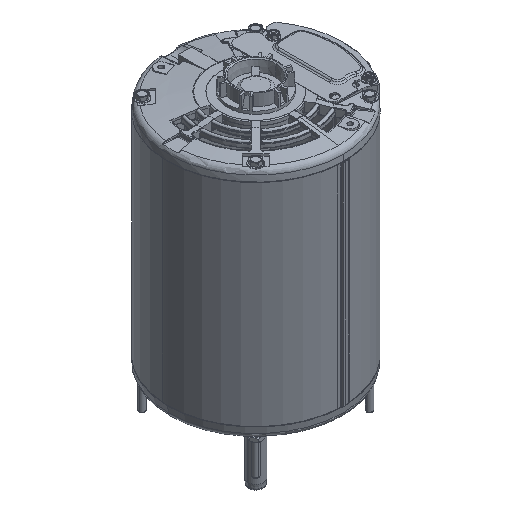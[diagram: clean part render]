
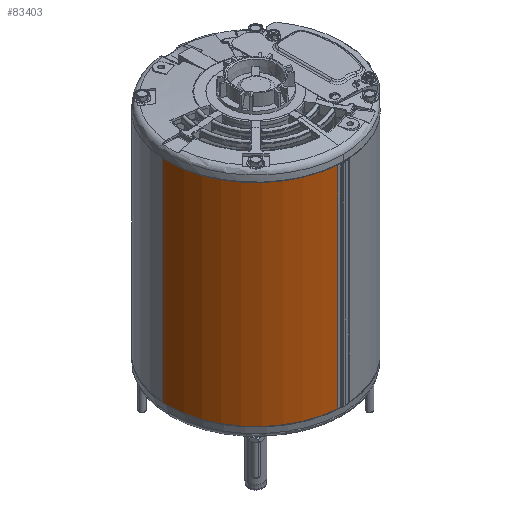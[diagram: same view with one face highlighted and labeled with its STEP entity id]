
A CAD part, isometric view. The second image highlights one B-rep face of the part: STEP entity #83403.
In plain terms, the highlighted cylindrical face has radius 71.064 mm (diameter 142.128 mm), a partial arc.
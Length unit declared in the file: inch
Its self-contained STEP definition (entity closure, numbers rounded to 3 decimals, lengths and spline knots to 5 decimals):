
#1217 = CARTESIAN_POINT ( 'NONE',  ( -2.7978, 0., 3.5884 ) ) ;
#2022 = CARTESIAN_POINT ( 'NONE',  ( 0., 0., 25.18046 ) ) ;
#5918 = CARTESIAN_POINT ( 'NONE',  ( -0.18298, -2.79181, 10.4134 ) ) ;
#10725 = VERTEX_POINT ( 'NONE', #65408 ) ;
#16226 = AXIS2_PLACEMENT_3D ( 'NONE', #2022, #104409, #138710 ) ;
#19414 = EDGE_CURVE ( 'NONE', #10725, #102709, #98943, .T. ) ;
#20513 = EDGE_CURVE ( 'NONE', #139731, #10725, #29333, .T. ) ;
#20539 = CIRCLE ( 'NONE', #105485, 2.7978 ) ;
#21456 = CIRCLE ( 'NONE', #127889, 2.7978 ) ;
#22016 = CARTESIAN_POINT ( 'NONE',  ( 0., 0., 3.5884 ) ) ;
#23955 = ORIENTED_EDGE ( 'NONE', *, *, #71492, .T. ) ;
#24320 = ORIENTED_EDGE ( 'NONE', *, *, #65866, .F. ) ;
#28236 = DIRECTION ( 'NONE',  ( 0., 0., -1. ) ) ;
#29333 = CIRCLE ( 'NONE', #86299, 2.7978 ) ;
#31665 = DIRECTION ( 'NONE',  ( 1., 0., 0. ) ) ;
#32005 = DIRECTION ( 'NONE',  ( 0., 0., 1. ) ) ;
#44804 = DIRECTION ( 'NONE',  ( 0., 0., -1. ) ) ;
#44891 = DIRECTION ( 'NONE',  ( -1., 0., 0. ) ) ;
#52071 = LINE ( 'NONE', #5918, #68043 ) ;
#53482 = DIRECTION ( 'NONE',  ( -1., 0., 0. ) ) ;
#54116 = DIRECTION ( 'NONE',  ( 0., 0., -1. ) ) ;
#63601 = AXIS2_PLACEMENT_3D ( 'NONE', #98796, #54116, #31665 ) ;
#64387 = EDGE_LOOP ( 'NONE', ( #126452, #76945, #131924, #23955, #73401, #24320 ) ) ;
#65408 = CARTESIAN_POINT ( 'NONE',  ( -2.79181, 0.18298, 10.3184 ) ) ;
#65866 = EDGE_CURVE ( 'NONE', #68173, #124952, #52071, .T. ) ;
#67186 = DIRECTION ( 'NONE',  ( 1., 0., 0. ) ) ;
#68043 = VECTOR ( 'NONE', #28236, 39.37008 ) ;
#68173 = VERTEX_POINT ( 'NONE', #101488 ) ;
#71492 = EDGE_CURVE ( 'NONE', #102709, #72276, #20539, .T. ) ;
#72276 = VERTEX_POINT ( 'NONE', #1217 ) ;
#73401 = ORIENTED_EDGE ( 'NONE', *, *, #111769, .T. ) ;
#74859 = CARTESIAN_POINT ( 'NONE',  ( -2.7978, 0., 10.3184 ) ) ;
#76945 = ORIENTED_EDGE ( 'NONE', *, *, #20513, .T. ) ;
#78601 = CARTESIAN_POINT ( 'NONE',  ( 0., 0., 10.3184 ) ) ;
#81733 = CARTESIAN_POINT ( 'NONE',  ( -0.18298, -2.79181, 3.5884 ) ) ;
#83403 = ADVANCED_FACE ( 'NONE', ( #113900 ), #112031, .T. ) ;
#86299 = AXIS2_PLACEMENT_3D ( 'NONE', #78601, #44804, #67186 ) ;
#98796 = CARTESIAN_POINT ( 'NONE',  ( 0., 0., 10.3184 ) ) ;
#98876 = CARTESIAN_POINT ( 'NONE',  ( -2.79181, 0.18298, 25.18046 ) ) ;
#98943 = LINE ( 'NONE', #98876, #123847 ) ;
#100639 = CARTESIAN_POINT ( 'NONE',  ( 0., 0., 3.5884 ) ) ;
#101488 = CARTESIAN_POINT ( 'NONE',  ( -0.18298, -2.79181, 10.3184 ) ) ;
#102709 = VERTEX_POINT ( 'NONE', #131497 ) ;
#104409 = DIRECTION ( 'NONE',  ( 0., 0., -1. ) ) ;
#105485 = AXIS2_PLACEMENT_3D ( 'NONE', #100639, #32005, #53482 ) ;
#111769 = EDGE_CURVE ( 'NONE', #72276, #124952, #21456, .T. ) ;
#112031 = CYLINDRICAL_SURFACE ( 'NONE', #16226, 2.7978 ) ;
#112999 = DIRECTION ( 'NONE',  ( 0., 0., 1. ) ) ;
#113900 = FACE_OUTER_BOUND ( 'NONE', #64387, .T. ) ;
#123736 = EDGE_CURVE ( 'NONE', #68173, #139731, #123993, .T. ) ;
#123847 = VECTOR ( 'NONE', #143218, 39.37008 ) ;
#123993 = CIRCLE ( 'NONE', #63601, 2.7978 ) ;
#124952 = VERTEX_POINT ( 'NONE', #81733 ) ;
#126452 = ORIENTED_EDGE ( 'NONE', *, *, #123736, .T. ) ;
#127889 = AXIS2_PLACEMENT_3D ( 'NONE', #22016, #112999, #44891 ) ;
#131497 = CARTESIAN_POINT ( 'NONE',  ( -2.79181, 0.18298, 3.5884 ) ) ;
#131924 = ORIENTED_EDGE ( 'NONE', *, *, #19414, .T. ) ;
#138710 = DIRECTION ( 'NONE',  ( -0.998, 0.065, 0. ) ) ;
#139731 = VERTEX_POINT ( 'NONE', #74859 ) ;
#143218 = DIRECTION ( 'NONE',  ( 0., 0., -1. ) ) ;
